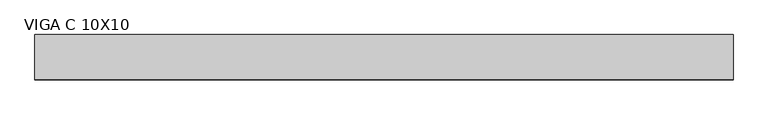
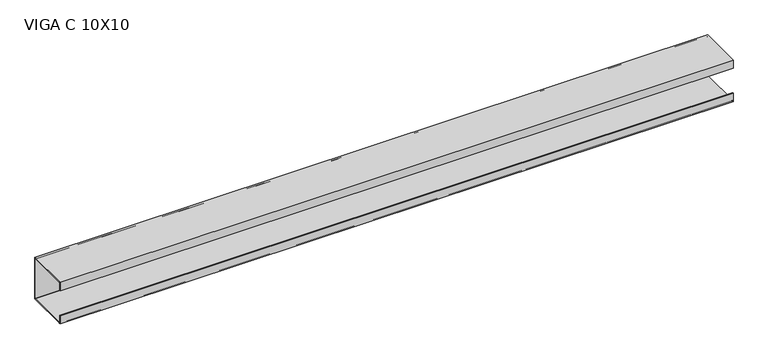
"""IFC4 building model written with IfcOpenShell, lengths in millimetres: beam geometry, VIGA PERFIL C AÇO : VIGA C 10X10."""

from ifc_helpers import new_model, si_unit, point, frame, frame_2d, origin, place, context, project, spatial, polyline, circle_curve, trimmed, segment, composite_curve, outline, extrude, source, transform, mapped, element, save


def viga_c_10x10_ae3c0a91(model_context):
    return source(origin(), model_context, "Body", "SweptSolid", [
        extrude(outline(polyline([(9.2, -50.0), (-90.8, -50.0), (-90.8, -30.0), (-88.9, -30.0), (-88.9, -48.1), (7.3, -48.1), (7.3, 48.1), (-88.9, 48.1), (-88.9, 30.0), (-90.8, 30.0), (-90.8, 50.0), (9.2, 50.0), (9.2, -50.0)])), frame((-792.0, 0.0, 0.0), z_axis=(1.0, 0.0, 0.0), x_axis=(0.0, 1.0, 0.0)), (0.0, 0.0, 1.0), 1533.0),
        extrude(outline(composite_curve([segment(trimmed(circle_curve(frame_2d((5.4, -46.2)), 3.8), [point((9.2, -46.2))], [point((5.4, -50.0))], False, "CARTESIAN"), True, "CONTINUOUS"), segment(polyline([(5.4, -50.0), (-87.0, -50.0)]), True, "CONTINUOUS"), segment(trimmed(circle_curve(frame_2d((-87.0, -46.2)), 3.8), [point((-87.0, -50.0))], [point((-90.8, -46.2))], False, "CARTESIAN"), True, "CONTINUOUS"), segment(polyline([(-90.8, -46.2), (-90.8, -30.0), (-88.9, -30.0), (-88.9, -46.2)]), True, "CONTINUOUS"), segment(trimmed(circle_curve(frame_2d((-87.0, -46.2)), 1.9), [point((-88.9, -46.2))], [point((-87.0, -48.1))], True, "CARTESIAN"), True, "CONTINUOUS"), segment(polyline([(-87.0, -48.1), (5.4, -48.1)]), True, "CONTINUOUS"), segment(trimmed(circle_curve(frame_2d((5.4, -46.2)), 1.9), [point((5.4, -48.1))], [point((7.3, -46.2))], True, "CARTESIAN"), True, "CONTINUOUS"), segment(polyline([(7.3, -46.2), (7.3, 46.2)]), True, "CONTINUOUS"), segment(trimmed(circle_curve(frame_2d((5.4, 46.2)), 1.9), [point((7.3, 46.2))], [point((5.4, 48.1))], True, "CARTESIAN"), True, "CONTINUOUS"), segment(polyline([(5.4, 48.1), (-87.0, 48.1)]), True, "CONTINUOUS"), segment(trimmed(circle_curve(frame_2d((-87.0, 46.2)), 1.9), [point((-87.0, 48.1))], [point((-88.9, 46.2))], True, "CARTESIAN"), True, "CONTINUOUS"), segment(polyline([(-88.9, 46.2), (-88.9, 30.0), (-90.8, 30.0), (-90.8, 46.2)]), True, "CONTINUOUS"), segment(trimmed(circle_curve(frame_2d((-87.0, 46.2)), 3.8), [point((-90.8, 46.2))], [point((-87.0, 50.0))], False, "CARTESIAN"), True, "CONTINUOUS"), segment(polyline([(-87.0, 50.0), (5.4, 50.0)]), True, "CONTINUOUS"), segment(trimmed(circle_curve(frame_2d((5.4, 46.2)), 3.8), [point((5.4, 50.0))], [point((9.2, 46.2))], False, "CARTESIAN"), True, "CONTINUOUS"), segment(polyline([(9.2, 46.2), (9.2, -46.2)]), True, "CONTINUOUS")], self_intersect=False)), frame((-792.0, 0.0, 0.0), z_axis=(1.0, 0.0, 0.0), x_axis=(0.0, 1.0, 0.0)), (0.0, 0.0, 1.0), 1533.0),
    ])


if __name__ == "__main__":
    model = new_model("IFC4")
    model_context = context("Model", 3, world=origin())
    ifc_project = project(units=[si_unit("LENGTHUNIT", "METRE", prefix="MILLI")], contexts=[model_context])
    site = spatial("IfcSite", under=ifc_project)
    building = spatial("IfcBuilding", under=site)
    placement = place(None, origin())
    viga_c_10x10_shape = viga_c_10x10_ae3c0a91(model_context)
    element("IfcBeam", 1, ObjectType="VIGA PERFIL C AÇO : VIGA C 10X10", at=placement, inside=building, context=model_context, shape_type="MappedRepresentation", body=[
        mapped(viga_c_10x10_shape, transform((0.0, 0.0, 0.0), x_axis=(1.0, 0.0, 0.0), y_axis=(0.0, 1.0, 0.0), z_axis=(0.0, 0.0, 1.0))),
    ])
    save(model, "model.ifc")
